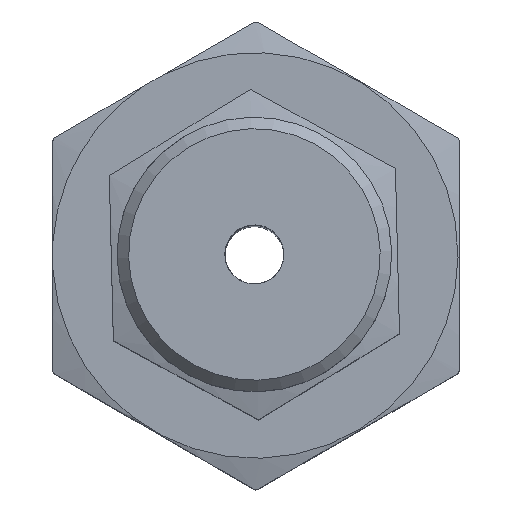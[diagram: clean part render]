
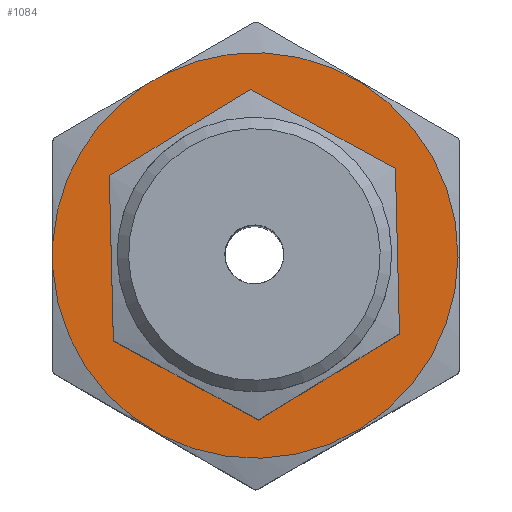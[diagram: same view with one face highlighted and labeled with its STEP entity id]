
A CAD part, top view. The second image highlights one B-rep face of the part: STEP entity #1084.
In plain terms, the highlighted planar face has unit normal (0, 0, 1).
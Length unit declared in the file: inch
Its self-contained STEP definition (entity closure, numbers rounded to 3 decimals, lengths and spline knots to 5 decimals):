
#50=LINE('',#2477,#77);
#53=LINE('',#2485,#80);
#77=VECTOR('',#1335,0.02951);
#80=VECTOR('',#1346,0.02575);
#168=PLANE('',#1187);
#244=FACE_BOUND('',#374,.T.);
#295=FACE_OUTER_BOUND('',#373,.T.);
#373=EDGE_LOOP('',(#878,#879,#880,#881));
#374=EDGE_LOOP('',(#882));
#448=CIRCLE('',#1161,0.21965);
#449=CIRCLE('',#1163,0.21965);
#456=CIRCLE('',#1188,0.088);
#521=VERTEX_POINT('',#2442);
#522=VERTEX_POINT('',#2446);
#523=VERTEX_POINT('',#2452);
#525=VERTEX_POINT('',#2457);
#534=VERTEX_POINT('',#2514);
#636=EDGE_CURVE('',#522,#521,#448,.T.);
#639=EDGE_CURVE('',#525,#523,#449,.T.);
#650=EDGE_CURVE('',#522,#523,#50,.T.);
#654=EDGE_CURVE('',#525,#521,#53,.T.);
#665=EDGE_CURVE('',#534,#534,#456,.T.);
#878=ORIENTED_EDGE('',*,*,#639,.T.);
#879=ORIENTED_EDGE('',*,*,#650,.F.);
#880=ORIENTED_EDGE('',*,*,#636,.T.);
#881=ORIENTED_EDGE('',*,*,#654,.F.);
#882=ORIENTED_EDGE('',*,*,#665,.T.);
#1084=ADVANCED_FACE('',(#295,#244),#168,.T.);
#1161=AXIS2_PLACEMENT_3D('',#2447,#1309,#1310);
#1163=AXIS2_PLACEMENT_3D('',#2458,#1313,#1314);
#1187=AXIS2_PLACEMENT_3D('',#2513,#1377,#1378);
#1188=AXIS2_PLACEMENT_3D('',#2515,#1379,#1380);
#1309=DIRECTION('center_axis',(0.,0.,
1.));
#1310=DIRECTION('ref_axis',(0.,1.,0.));
#1313=DIRECTION('center_axis',(0.,0.,
1.));
#1314=DIRECTION('ref_axis',(0.,1.,0.));
#1335=DIRECTION('',(0.,1.,0.));
#1346=DIRECTION('',(0.866,0.5,0.));
#1377=DIRECTION('center_axis',(0.,0.,
1.));
#1378=DIRECTION('ref_axis',(1.,0.,0.));
#1379=DIRECTION('center_axis',(0.,0.,
-1.));
#1380=DIRECTION('ref_axis',(-1.,0.,0.));
#2442=CARTESIAN_POINT('',(-0.09849,0.19633,0.62837));
#2446=CARTESIAN_POINT('',(-0.21915,-0.01475,0.62837));
#2447=CARTESIAN_POINT('Origin',(0.,0.,0.62837));
#2452=CARTESIAN_POINT('',(-0.21915,0.01475,0.62837));
#2457=CARTESIAN_POINT('',(-0.12078,0.18346,0.62837));
#2458=CARTESIAN_POINT('Origin',(0.,0.,0.62837));
#2477=CARTESIAN_POINT('',(-0.21915,-0.12737,0.62837));
#2485=CARTESIAN_POINT('',(-0.21915,0.12666,0.62837));
#2513=CARTESIAN_POINT('Origin',(0.00085,-0.00035,
0.62837));
#2514=CARTESIAN_POINT('',(0.08885,-0.00035,0.62837));
#2515=CARTESIAN_POINT('Origin',(0.00085,-0.00035,
0.62837));
